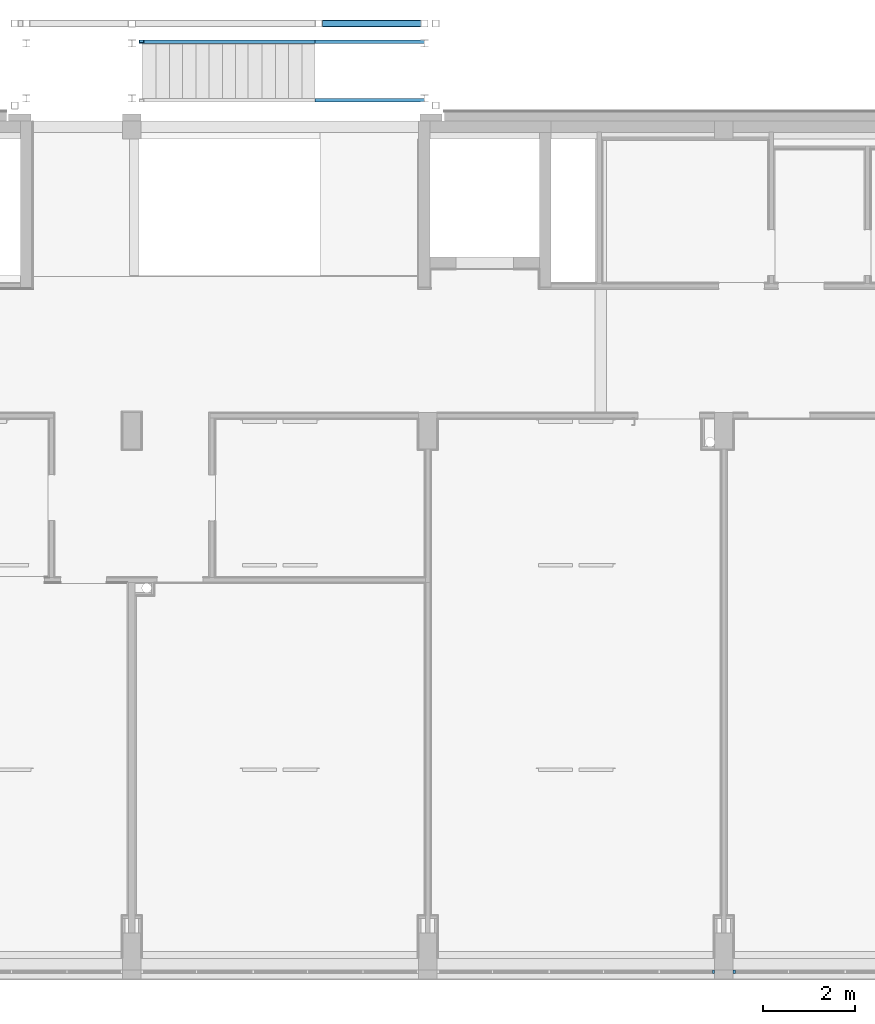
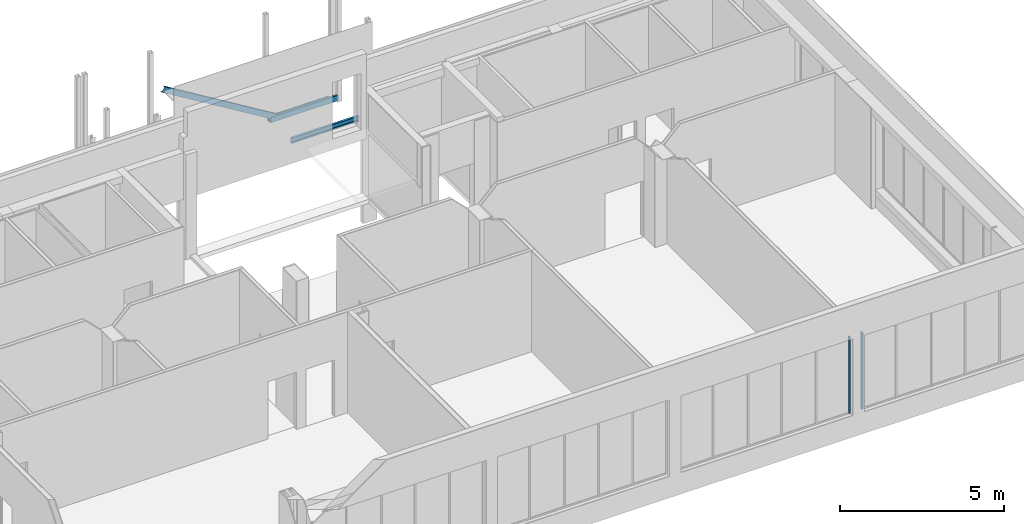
# One storey, part 10 of 29: 4 beams, 2 members, 2 elements without a shape of their own.
"""IFC2X3 building model written with IfcOpenShell, lengths in centimetres."""

from ifc_helpers import new_model, entity, si_unit, converted_unit, derived_unit, direction, frame, frame_2d, origin, origin_2d_with_axis, place, context, subcontext, project, spatial, polyline, circle_curve, parameter, trimmed, segment, composite_curve, rectangle, outline, extrude, source, transform, mapped, material, type_object, type_shapes, element, aggregate, save


model = new_model("IFC2X3")

# Units and contexts
model_context = context("Model", 3, precision=0.001, world=origin(), true_north=direction((6.12303176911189e-17, 1.0)))
body_context = subcontext(model_context, "Body", "Model", "MODEL_VIEW")
ifc_project = project(units=[si_unit("LENGTHUNIT", "METRE", prefix="CENTI"), si_unit("AREAUNIT", "SQUARE_METRE"), si_unit("VOLUMEUNIT", "CUBIC_METRE"), converted_unit("PLANEANGLEUNIT", "DEGREE", entity("IfcRatioMeasure", 0.0174532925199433), si_unit("PLANEANGLEUNIT", "RADIAN"), dimensions=[0, 0, 0, 0, 0, 0, 0]), si_unit("MASSUNIT", "GRAM", prefix="KILO"), derived_unit("MASSDENSITYUNIT", [(si_unit("MASSUNIT", "GRAM", prefix="KILO"), 1), (si_unit("LENGTHUNIT", "METRE"), -3)]), derived_unit("MOMENTOFINERTIAUNIT", [(si_unit("LENGTHUNIT", "METRE"), 4)]), si_unit("TIMEUNIT", "SECOND"), si_unit("FREQUENCYUNIT", "HERTZ"), si_unit("THERMODYNAMICTEMPERATUREUNIT", "DEGREE_CELSIUS"), derived_unit("THERMALTRANSMITTANCEUNIT", [(si_unit("MASSUNIT", "GRAM", prefix="KILO"), 1), (si_unit("THERMODYNAMICTEMPERATUREUNIT", "KELVIN"), -1), (si_unit("TIMEUNIT", "SECOND"), -3)]), derived_unit("VOLUMETRICFLOWRATEUNIT", [(si_unit("LENGTHUNIT", "METRE"), 3), (si_unit("TIMEUNIT", "SECOND"), -1)]), si_unit("ELECTRICCURRENTUNIT", "AMPERE"), si_unit("ELECTRICVOLTAGEUNIT", "VOLT"), si_unit("POWERUNIT", "WATT"), si_unit("FORCEUNIT", "NEWTON", prefix="KILO"), si_unit("ILLUMINANCEUNIT", "LUX"), si_unit("LUMINOUSFLUXUNIT", "LUMEN"), si_unit("LUMINOUSINTENSITYUNIT", "CANDELA"), derived_unit("USERDEFINED", [(si_unit("MASSUNIT", "GRAM", prefix="KILO"), -1), (si_unit("LENGTHUNIT", "METRE"), -2), (si_unit("TIMEUNIT", "SECOND"), 3), (si_unit("LUMINOUSFLUXUNIT", "LUMEN"), 1)]), derived_unit("LINEARVELOCITYUNIT", [(si_unit("LENGTHUNIT", "METRE"), 1), (si_unit("TIMEUNIT", "SECOND"), -1)]), si_unit("PRESSUREUNIT", "PASCAL"), derived_unit("USERDEFINED", [(si_unit("LENGTHUNIT", "METRE"), -2), (si_unit("MASSUNIT", "GRAM", prefix="KILO"), 1), (si_unit("TIMEUNIT", "SECOND"), -2)]), derived_unit("LINEARFORCEUNIT", [(si_unit("MASSUNIT", "GRAM", prefix="KILO"), 1), (si_unit("LENGTHUNIT", "METRE"), 1), (si_unit("TIMEUNIT", "SECOND"), -2), (si_unit("LENGTHUNIT", "METRE"), -1)]), derived_unit("PLANARFORCEUNIT", [(si_unit("MASSUNIT", "GRAM", prefix="KILO"), 1), (si_unit("LENGTHUNIT", "METRE"), 1), (si_unit("TIMEUNIT", "SECOND"), -2), (si_unit("LENGTHUNIT", "METRE"), -2)])], contexts=[model_context])

# Site, building, storey
site_placement = place(None, origin())
site = spatial("IfcSite", under=ifc_project, at=site_placement, Name="Default", CompositionType="ELEMENT")
building_placement = place(site_placement, origin())
building = spatial("IfcBuilding", under=site, at=building_placement, CompositionType="ELEMENT")
storey_placement = place(building_placement, frame((0.0, 0.0, 545.0)))
storey = spatial("IfcBuildingStorey", under=building, at=storey_placement, Name="Poziom 1K +5,45", CompositionType="ELEMENT", Elevation=544.999999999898)

# Curtain wall, member
curtain_wall_type = type_object("IfcCurtainWallType", PredefinedType="NOTDEFINED")
curtain_wall_1_placement = place(storey_placement, frame((0.0, 0.0, -545.0)))
curtain_wall_1 = element("IfcCurtainWall", 1, at=curtain_wall_1_placement, inside=storey, type_object=curtain_wall_type)
ifc_material_1 = material(Name="Aluminium")
member_type_1 = type_object("IfcMemberType", Name="Prostokątny szpros:50 x 80mm", PredefinedType="MULLION", material=ifc_material_1)
shared_shape_1 = source(origin(), body_context, "Body", "SweptSolid", [
    extrude(rectangle(XDim=8.0, YDim=5.0, at=origin_2d_with_axis()), frame((-2.5, 0.0, -285.0), z_axis=(0.0, 0.0, 1.0), x_axis=(0.0, -1.0, 0.0)), (0.0, 0.0, 1.0), 284.99999999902),
])
type_shapes(member_type_1, [shared_shape_1])
member_1_placement = place(curtain_wall_1_placement, frame((290.734879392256, 251.127657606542, 625.0), z_axis=(0.0, 0.0, -1.0), x_axis=(1.0, 0.0, 0.0)))
member_1 = element("IfcMember", 2, at=member_1_placement, type_object=member_type_1, Name="Prostokątny szpros:50 x 80mm", ObjectType="Prostokątny szpros:50 x 80mm", context=body_context, shape_type="MappedRepresentation", body=[
    mapped(shared_shape_1, transform((0.0, 0.0, 0.0), scale=1.0)),
])
aggregate(curtain_wall_1, [member_1])

curtain_wall_2_placement = place(storey_placement, frame((0.0, 0.0, -545.0)))
curtain_wall_2 = element("IfcCurtainWall", 3, at=curtain_wall_2_placement, inside=storey, type_object=curtain_wall_type)
member_type_2 = type_object("IfcMemberType", Name="Prostokątny szpros:50 x 80mm", PredefinedType="MULLION", material=ifc_material_1)
shared_shape_2 = source(origin(), body_context, "Body", "SweptSolid", [
    extrude(rectangle(XDim=8.0, YDim=5.0, at=origin_2d_with_axis()), frame((-2.5, 0.0, -285.0), z_axis=(0.0, 0.0, 1.0), x_axis=(0.0, -1.0, 0.0)), (0.0, 0.0, 1.0), 284.99999999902),
])
type_shapes(member_type_2, [shared_shape_2])
member_2_placement = place(curtain_wall_2_placement, frame((330.734891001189, 251.127657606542, 910.0), z_axis=(0.0, 0.0, 1.0), x_axis=(-1.0, 0.0, 0.0)))
member_2 = element("IfcMember", 4, at=member_2_placement, type_object=member_type_2, Name="Prostokątny szpros:50 x 80mm", ObjectType="Prostokątny szpros:50 x 80mm", context=body_context, shape_type="MappedRepresentation", body=[
    mapped(shared_shape_2, transform((0.0, 0.0, 0.0), scale=1.0)),
])
aggregate(curtain_wall_2, [member_2])

# Beams
ifc_material_2 = material(Name="Stal konstrukcyjna - S235")
beam_type_1 = type_object("IfcBeamType", Name="STAL RK - Ksztaltowniki zamkniete kwadratowe:RK150x6", PredefinedType="NOTDEFINED")
beam_1_placement = place(storey_placement, frame((-343.072227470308, 2317.08692648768, 211.0), z_axis=(0.0, 0.0, 1.0), x_axis=(-1.0, 0.0, 0.0)))
element("IfcBeam", 5, at=beam_1_placement, inside=storey, type_object=beam_type_1, material=ifc_material_2, Name="STAL RK - Ksztaltowniki zamkniete kwadratowe:RK150x6", ObjectType="STAL RK - Ksztaltowniki zamkniete kwadratowe:RK150x6", context=body_context, shape_type="SweptSolid", body=[
    extrude(outline(composite_curve([segment(trimmed(circle_curve(frame_2d((-6.29999999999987, -6.29999999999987), x_axis=(1.0, 0.0)), 1.2), [parameter(180.0)], [parameter(270.0)], True, "PARAMETER"), True, "CONTINUOUS"), segment(polyline([(-6.29999999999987, -7.49999999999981), (6.29999999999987, -7.49999999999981)]), True, "CONTINUOUS"), segment(trimmed(circle_curve(frame_2d((6.3000000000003, -6.29999999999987), x_axis=(1.0, 0.0)), 1.19999999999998), [parameter(270.0)], [parameter(360.0)], True, "PARAMETER"), True, "CONTINUOUS"), segment(polyline([(7.50000000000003, -6.29999999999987), (7.50000000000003, 6.29999999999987)]), True, "CONTINUOUS"), segment(trimmed(circle_curve(frame_2d((6.29999999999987, 6.29999999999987), x_axis=(1.0, 0.0)), 1.20000000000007), [parameter(360.0)], [parameter(89.9999999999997)], True, "PARAMETER"), True, "CONTINUOUS"), segment(polyline([(6.29999999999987, 7.49999999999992), (-6.30000000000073, 7.49999999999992)]), True, "CONTINUOUS"), segment(trimmed(circle_curve(frame_2d((-6.30000000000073, 6.30000000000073), x_axis=(1.0, 0.0)), 1.19999999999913), [parameter(89.9999999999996)], [parameter(179.999999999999)], True, "PARAMETER"), True, "CONTINUOUS"), segment(polyline([(-7.50000000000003, 6.30000000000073), (-7.50000000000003, -6.29999999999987)]), True, "CONTINUOUS")], self_intersect=False), holes=[composite_curve([segment(polyline([(-6.90000000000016, -6.29999999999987), (-6.90000000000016, 6.30000000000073)]), True, "CONTINUOUS"), segment(trimmed(circle_curve(frame_2d((-6.30000000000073, 6.30000000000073), x_axis=(1.0, 0.0)), 0.59999999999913), [parameter(90.0000000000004)], [parameter(180.0)], True, "PARAMETER"), False, "CONTINUOUS"), segment(polyline([(-6.30000000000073, 6.89999999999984), (6.29999999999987, 6.89999999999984)]), True, "CONTINUOUS"), segment(trimmed(circle_curve(frame_2d((6.29999999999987, 6.29999999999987), x_axis=(1.0, 0.0)), 0.600000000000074), [parameter(4.07110999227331e-13)], [parameter(90.0000000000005)], True, "PARAMETER"), False, "CONTINUOUS"), segment(polyline([(6.90000000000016, 6.29999999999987), (6.90000000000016, -6.29999999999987)]), True, "CONTINUOUS"), segment(trimmed(circle_curve(frame_2d((6.3000000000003, -6.29999999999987), x_axis=(1.0, 0.0)), 0.59999999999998), [parameter(270.0)], [parameter(5.08888749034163e-13)], True, "PARAMETER"), False, "CONTINUOUS"), segment(polyline([(6.29999999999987, -6.89999999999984), (-6.29999999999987, -6.89999999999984)]), True, "CONTINUOUS"), segment(trimmed(circle_curve(frame_2d((-6.29999999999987, -6.29999999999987), x_axis=(1.0, 0.0)), 0.600000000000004), [parameter(180.0)], [parameter(270.0)], True, "PARAMETER"), False, "CONTINUOUS")], self_intersect=False)]), frame((6.19997373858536, -0.259999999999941, 7.50000000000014), z_axis=(1.0, 0.0, 0.0), x_axis=(0.0, -1.0, 0.0)), (0.0, 0.0, 1.0), 214.9),
])
beam_type_2 = type_object("IfcBeamType", Name="C:C200", PredefinedType="NOTDEFINED")
beam_2_placement = place(storey_placement, frame((-343.072227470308, 2275.8224511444, 236.0), z_axis=(0.0, 0.0, 1.0), x_axis=(-1.0, 0.0, 0.0)))
element("IfcBeam", 6, at=beam_2_placement, inside=storey, type_object=beam_type_2, material=ifc_material_2, Name="C:C200", ObjectType="C:C200", context=body_context, shape_type="SweptSolid", body=[
    extrude(outline(composite_curve([segment(polyline([(9.70369668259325, -3.38230372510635), (10.0, -3.38230372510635)]), True, "CONTINUOUS"), segment(polyline([(10.0, -3.38230372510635), (10.0, 4.11769627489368)]), True, "CONTINUOUS"), segment(polyline([(10.0, 4.11769627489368), (-10.0, 4.11769627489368)]), True, "CONTINUOUS"), segment(polyline([(-10.0, 4.11769627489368), (-10.0, -3.38230372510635)]), True, "CONTINUOUS"), segment(polyline([(-10.0, -3.38230372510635), (-9.70369668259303, -3.38230372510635)]), True, "CONTINUOUS"), segment(trimmed(circle_curve(frame_2d((-9.70369668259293, -2.78230372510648), x_axis=(0.0, -1.0)), 0.599999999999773), [parameter(0.0)], [parameter(85.4300000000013)], True, "PARAMETER"), True, "CONTINUOUS"), segment(polyline([(-9.10560424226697, -2.83010992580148), (-8.70279656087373, 2.20932482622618)]), True, "CONTINUOUS"), segment(trimmed(circle_curve(frame_2d((-7.55645271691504, 2.11769627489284), x_axis=(-0.996820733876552, 0.079677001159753)), 1.15000000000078), [parameter(274.570000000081)], [parameter(0.0)], True, "PARAMETER"), False, "CONTINUOUS"), segment(polyline([(-7.55645271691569, 3.26769627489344), (7.55645271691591, 3.26769627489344)]), True, "CONTINUOUS"), segment(trimmed(circle_curve(frame_2d((7.55645271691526, 2.11769627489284), x_axis=(0.0, 1.0)), 1.15000000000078), [parameter(274.570000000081)], [parameter(0.0)], True, "PARAMETER"), False, "CONTINUOUS"), segment(polyline([(8.70279656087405, 2.20932482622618), (9.10560424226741, -2.83010992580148)]), True, "CONTINUOUS"), segment(trimmed(circle_curve(frame_2d((9.70369668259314, -2.78230372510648), x_axis=(-0.996820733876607, -0.0796770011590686)), 0.599999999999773), [parameter(0.0)], [parameter(85.4300000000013)], True, "PARAMETER"), True, "CONTINUOUS")], self_intersect=False)), frame((-1.61502626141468, -2.10769627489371, 10.0), z_axis=(1.0, 0.0, 0.0), x_axis=(0.0, 0.0, -1.0)), (0.0, 0.0, 1.0), 238.221125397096),
])
beam_3_placement = place(storey_placement, frame((-343.072227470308, 2152.0024511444, 236.0), z_axis=(0.0, 0.0, 1.0), x_axis=(-1.0, 0.0, 0.0)))
element("IfcBeam", 7, at=beam_3_placement, inside=storey, type_object=beam_type_2, material=ifc_material_2, Name="C:C200", ObjectType="C:C200", context=body_context, shape_type="SweptSolid", body=[
    extrude(outline(composite_curve([segment(polyline([(-10.0, -4.11769627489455), (10.0, -4.11769627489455)]), True, "CONTINUOUS"), segment(polyline([(10.0, -4.11769627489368), (10.0, 3.38230372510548)]), True, "CONTINUOUS"), segment(polyline([(10.0, 3.38230372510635), (9.7036966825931, 3.38230372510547)]), True, "CONTINUOUS"), segment(trimmed(circle_curve(frame_2d((9.70369668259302, 2.78230372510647), x_axis=(0.0, 1.0)), 0.599999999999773), [parameter(0.0)], [parameter(85.4300000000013)], True, "PARAMETER"), True, "CONTINUOUS"), segment(polyline([(9.10560424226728, 2.83010992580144), (8.70279656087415, -2.2093248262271)]), True, "CONTINUOUS"), segment(trimmed(circle_curve(frame_2d((7.55645271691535, -2.11769627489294), x_axis=(0.996820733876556, -0.0796770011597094)), 1.15000000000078), [parameter(274.570000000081)], [parameter(0.0)], True, "PARAMETER"), False, "CONTINUOUS"), segment(polyline([(7.55645271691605, -3.26769627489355), (-7.55645271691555, -3.26769627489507)]), True, "CONTINUOUS"), segment(trimmed(circle_curve(frame_2d((-7.55645271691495, -2.1176962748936), x_axis=(0.0, -1.0)), 1.15000000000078), [parameter(274.570000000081)], [parameter(0.0)], True, "PARAMETER"), False, "CONTINUOUS"), segment(polyline([(-8.70279656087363, -2.20932482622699), (-9.1056042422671, 2.83010992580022)]), True, "CONTINUOUS"), segment(trimmed(circle_curve(frame_2d((-9.70369668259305, 2.78230372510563), x_axis=(0.996820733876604, 0.0796770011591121)), 0.599999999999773), [parameter(0.0)], [parameter(85.4300000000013)], True, "PARAMETER"), True, "CONTINUOUS"), segment(polyline([(-9.70369668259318, 3.38230372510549), (-10.0, 3.38230372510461)]), True, "CONTINUOUS"), segment(polyline([(-10.0, 3.38230372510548), (-10.0, -4.11769627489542)]), True, "CONTINUOUS")], self_intersect=False)), frame((-1.61502626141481, 2.10769627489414, 10.0), z_axis=(1.0, 0.0, 0.0), x_axis=(0.0, 0.0, -1.0)), (0.0, 0.0, 1.0), 238.221125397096),
])
beam_4_placement = place(storey_placement, frame((-562.227580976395, 2275.8224511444, 240.523101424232), z_axis=(0.51886930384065, 0.0, 0.854853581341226), x_axis=(-0.854853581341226, 0.0, 0.51886930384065)))
element("IfcBeam", 8, at=beam_4_placement, inside=storey, type_object=beam_type_2, material=ifc_material_2, Name="C:C200", ObjectType="C:C200", context=body_context, shape_type="SweptSolid", body=[
    extrude(outline(composite_curve([segment(polyline([(9.70369668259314, -3.38230372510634), (10.0, -3.38230372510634)]), True, "CONTINUOUS"), segment(polyline([(10.0, -3.38230372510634), (10.0, 4.11769627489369)]), True, "CONTINUOUS"), segment(polyline([(10.0, 4.11769627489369), (-10.0, 4.11769627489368)]), True, "CONTINUOUS"), segment(polyline([(-10.0, 4.11769627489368), (-10.0, -3.38230372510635)]), True, "CONTINUOUS"), segment(polyline([(-10.0, -3.38230372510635), (-9.70369668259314, -3.38230372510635)]), True, "CONTINUOUS"), segment(trimmed(circle_curve(frame_2d((-9.70369668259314, -2.78230372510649), x_axis=(0.0, -1.0)), 0.599999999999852), [parameter(0.0)], [parameter(85.4300000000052)], True, "PARAMETER"), True, "CONTINUOUS"), segment(polyline([(-9.10560424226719, -2.83010992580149), (-8.70279656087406, 2.20932482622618)]), True, "CONTINUOUS"), segment(trimmed(circle_curve(frame_2d((-7.55645271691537, 2.11769627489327), x_axis=(-0.996820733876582, 0.0796770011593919)), 1.15000000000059), [parameter(274.570000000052)], [parameter(0.0)], True, "PARAMETER"), False, "CONTINUOUS"), segment(polyline([(-7.55645271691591, 3.26769627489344), (7.5564527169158, 3.26769627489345)]), True, "CONTINUOUS"), segment(trimmed(circle_curve(frame_2d((7.55645271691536, 2.11769627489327), x_axis=(0.0, 1.0)), 1.15000000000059), [parameter(274.570000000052)], [parameter(0.0)], True, "PARAMETER"), False, "CONTINUOUS"), segment(polyline([(8.70279656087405, 2.20932482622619), (9.10560424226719, -2.83010992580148)]), True, "CONTINUOUS"), segment(trimmed(circle_curve(frame_2d((9.70369668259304, -2.78230372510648), x_axis=(-0.996820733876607, -0.0796770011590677)), 0.59999999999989), [parameter(0.0)], [parameter(85.4300000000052)], True, "PARAMETER"), True, "CONTINUOUS")], self_intersect=False)), frame((0.656917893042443, -2.10769627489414, 10.0), z_axis=(1.0, 0.0, 0.0), x_axis=(0.0, 0.0, -1.0)), (0.0, 0.0, 1.0), 468.267691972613),
])

save(model, "model.ifc")
